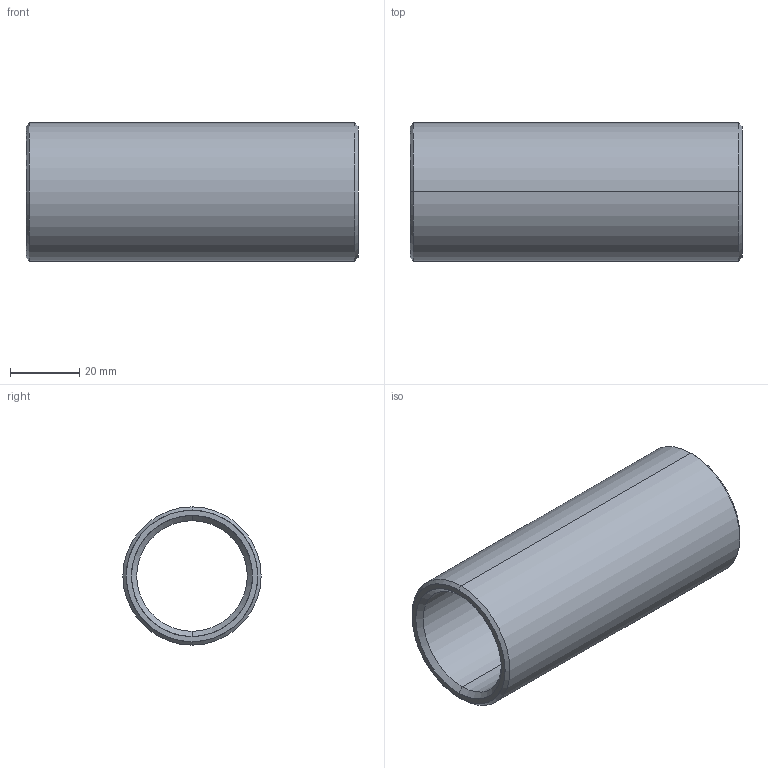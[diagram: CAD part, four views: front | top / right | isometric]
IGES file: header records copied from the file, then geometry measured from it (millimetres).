
Start section: START RECORD GO HERE.
Global section: file name: 352-32X96.igs; native system: DASSAULT SYSTEMES CATIA V5 R20 - www.3ds.com; preprocessor: CATIA Version 5 Release 20 ; author: Utente; organization: NB04-ASUS; date: 20210414.165822; units: millimetre
Bounding box: 96 x 40 x 40 mm (x, y, z)
Surface area: 22341.5 mm2 (no closed solid volume)
Topology: 0 solids, 0 shells, 14 faces, 88 edges, 88 vertices
Faces by surface type: revolution 12, plane 2
